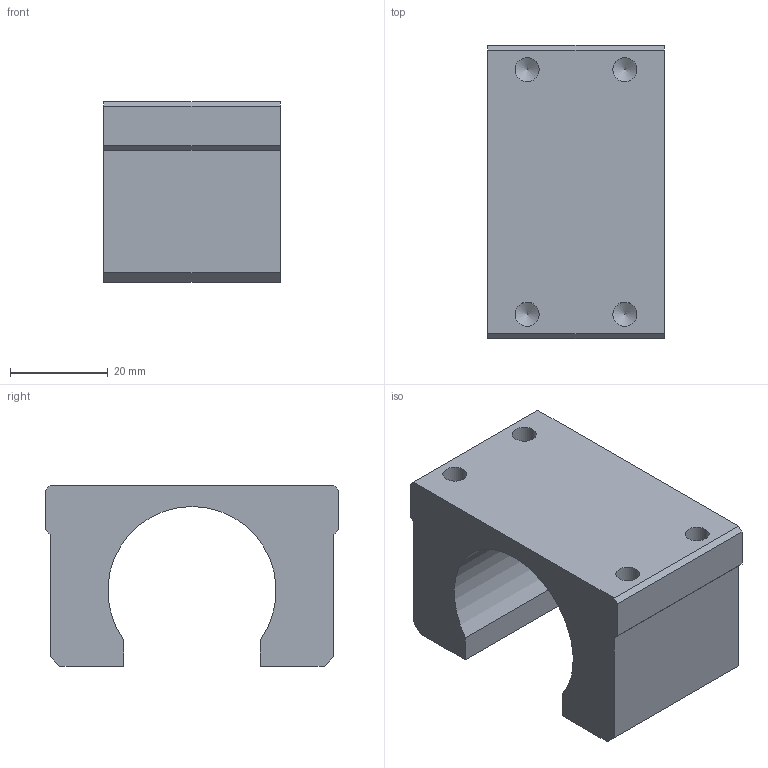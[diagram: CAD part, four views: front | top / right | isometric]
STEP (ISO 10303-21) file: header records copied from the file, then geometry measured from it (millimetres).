
FILE_DESCRIPTION((''),'2;1');
FILE_NAME('D:\製品 (図面)\カタログ用3D\ネジ関連\STEP形式\NH\NH14.stp','2010-06-02T14:39:24',('Tsuchiya'),(''),'Autodesk Inventor 10','Autodesk Inventor 10','');
FILE_SCHEMA(('AUTOMOTIVE_DESIGN { 1 0 10303 214 1 1 1 1 }'));
Length unit declared in the file: millimetre
Products named in the file (1): NH14
Bounding box: 36 x 60 x 37 mm (x, y, z)
Volume: 42494.5 mm3; surface area: 12479.2 mm2
Topology: 1 solids, 1 shells, 34 faces, 96 edges, 64 vertices
Faces by surface type: plane 17, bspline 16, cylinder 1
Entity records: 1105 total; most frequent: CARTESIAN_POINT 419, ORIENTED_EDGE 128, DIRECTION 120, EDGE_CURVE 64, EDGE_LOOP 50, VERTEX_POINT 48, VECTOR 46, LINE 46
